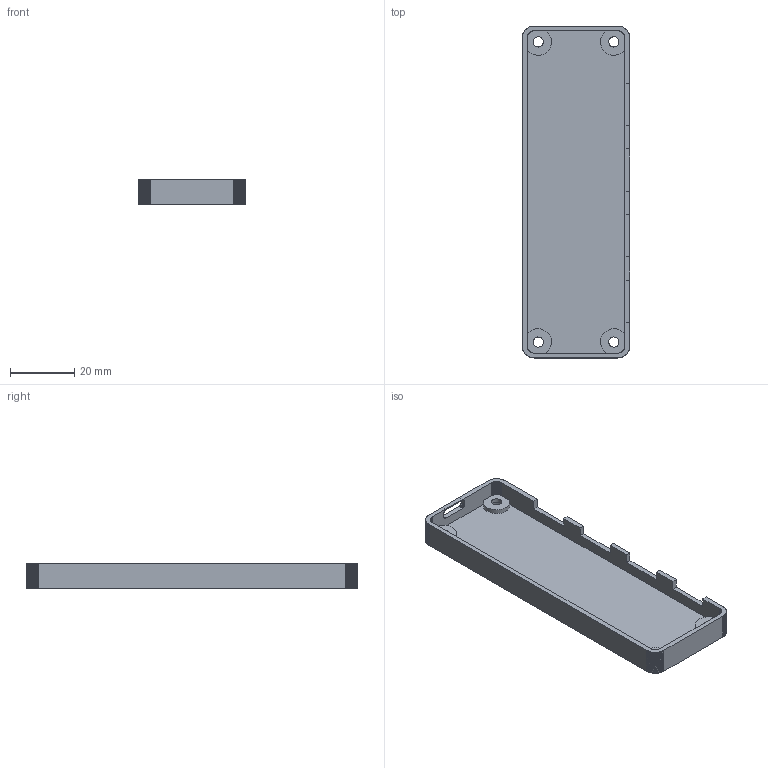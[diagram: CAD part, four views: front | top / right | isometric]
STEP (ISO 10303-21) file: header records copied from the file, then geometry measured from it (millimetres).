
FILE_DESCRIPTION(('Designed by EasyEDA Pro'),'2;1');
FILE_NAME('Open CASCADE Shape Model','2026-10-25T13:24:12',('Author'),( 'Open CASCADE'),'Open CASCADE STEP processor 7.8','Open CASCADE 7.8' ,'Unknown');
FILE_SCHEMA(('AUTOMOTIVE_DESIGN { 1 0 10303 214 1 1 1 1 }'));
Length unit declared in the file: millimetre
Products named in the file (1): Open CASCADE STEP translator 7.8 2
Bounding box: 33.5 x 103.5 x 8 mm (x, y, z)
Volume: 7534.9 mm3; surface area: 10570.3 mm2
Topology: 1 solids, 1 shells, 326 faces, 960 edges, 640 vertices
Faces by surface type: bspline 326
Entity records: 20634 total; most frequent: CARTESIAN_POINT 8145, B_SPLINE_CURVE_WITH_KNOTS 2832, ORIENTED_EDGE 1920, PCURVE 1920, DEFINITIONAL_REPRESENTATION 1920, EDGE_CURVE 960, SURFACE_CURVE 952, VERTEX_POINT 640
